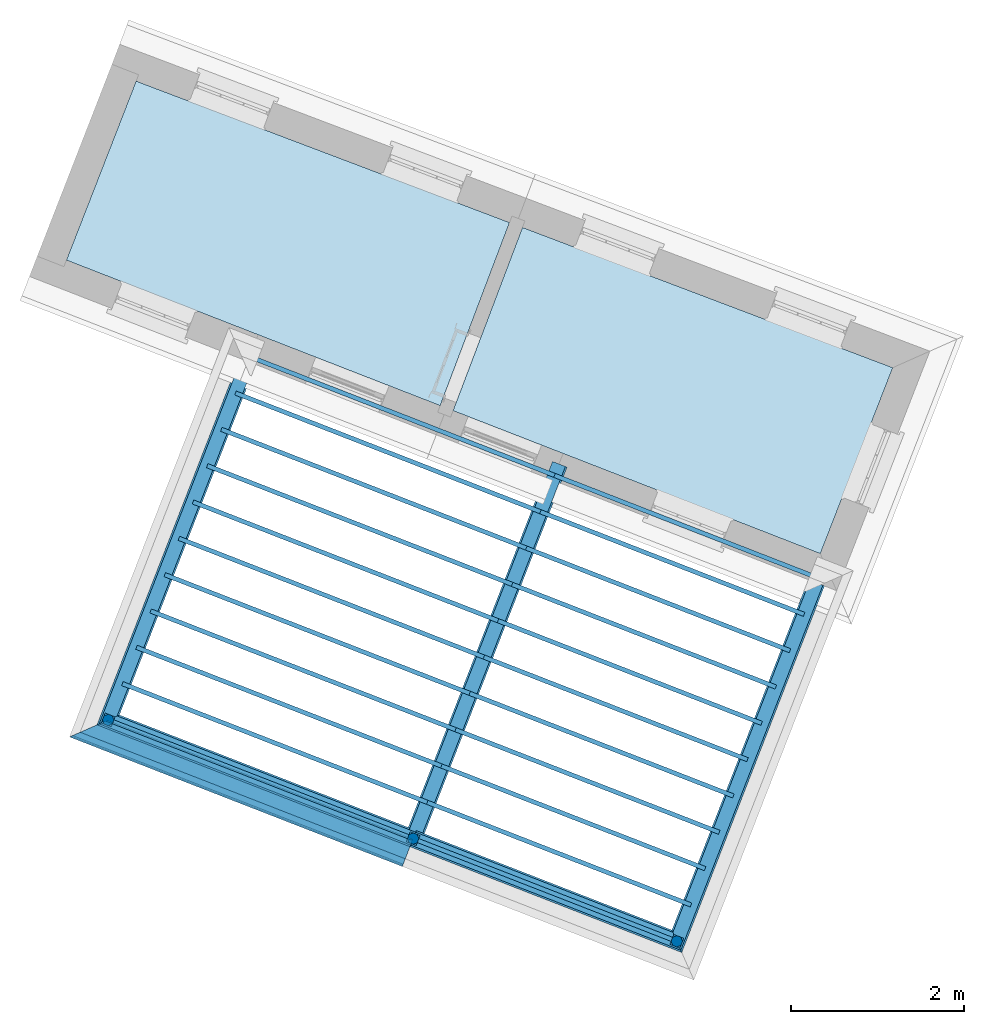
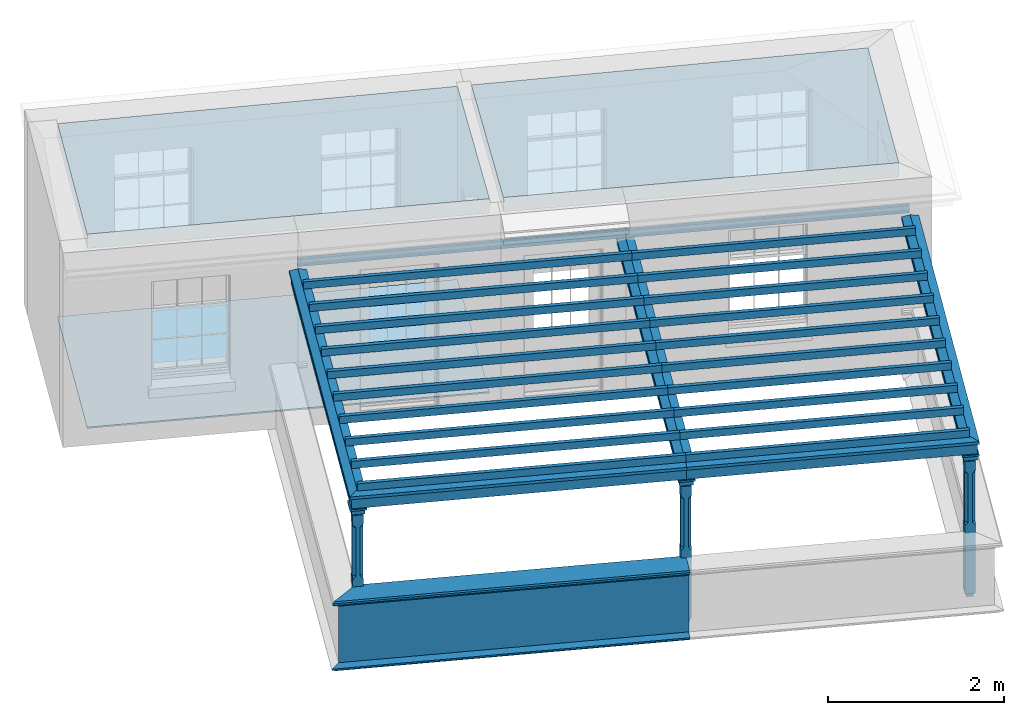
# One storey, part 1 of 5: 32 beams, 3 columns, 3 slabs, 3 walls.
"""IFC4 building model written with IfcOpenShell, lengths in metres."""

from ifc_helpers import new_model, si_unit, frame, origin, origin_with_axes, place, context, subcontext, project, spatial, polyline, outline, extrude, clip, halfspace, faceted_brep, source, transform, mapped, material_profile, profile_set, profile_usage, type_object, type_shapes, element, save


model = new_model("IFC4")

# Units and contexts
model_context = context("Model", 3, world=origin_with_axes())
body_context = subcontext(model_context, "Body", "Model", "MODEL_VIEW")
ifc_project = project(units=[si_unit("PLANEANGLEUNIT", "RADIAN"), si_unit("MASSUNIT", "GRAM", prefix="KILO"), si_unit("FORCEUNIT", "NEWTON", prefix="KILO"), si_unit("LENGTHUNIT", "METRE"), si_unit("AREAUNIT", "SQUARE_METRE"), si_unit("VOLUMEUNIT", "CUBIC_METRE")], contexts=[model_context, model_context])

# Sites, building, storey
site_1_placement = place(None, origin_with_axes())
site_1 = spatial("IfcSite", under=ifc_project, at=site_1_placement, Name="Tamar")
site_2_placement = place(site_1_placement, origin_with_axes())
site_2 = spatial("IfcSite", under=site_1, at=site_2_placement, Name="Site plot-8", CompositionType="ELEMENT")
building_placement = place(None, origin_with_axes())
building = spatial("IfcBuilding", under=site_2, at=building_placement, Name="Building plot-8", CompositionType="ELEMENT")
storey_placement = place(None, frame((0.0, 0.0, 31.55), z_axis=(0.0, 0.0, 1.0), x_axis=(1.0, 0.0, 0.0)))
storey = spatial("IfcBuildingStorey", under=building, at=storey_placement, Name="plot-8 2", CompositionType="ELEMENT", Elevation=31.55)

# Columns
column_type = type_object("IfcColumnType", Name="pergola post", PredefinedType="NOTDEFINED")
shared_shape = source(origin(), body_context, "Body", "Brep", [
    faceted_brep([(0.0246, -0.0615, 1.72), (0.0615, -0.0246, 1.72), (0.0615, -0.0615, 1.766667), (0.0615, -0.0246, 1.044444), (0.0246, -0.0615, 1.044444), (0.0615, 0.0246, 1.72), (0.0615, 0.0615, 1.766667), (-0.0246, -0.0615, 1.72), (-0.0615, -0.0615, 1.766667), (-0.0246, -0.0615, 1.044444), (0.0615, -0.0615, 0.997778), (0.0615, 0.0246, 1.044444), (0.0246, 0.0615, 1.72), (0.0615, 0.0615, 1.891111), (0.0615, -0.0615, 1.891111), (-0.0615, -0.0615, 1.891111), (-0.0615, -0.0246, 1.72), (-0.0615, -0.0246, 1.044444), (-0.0615, -0.0615, 0.997778), (0.0615, 0.0615, 0.997778), (0.0246, 0.0615, 1.044444), (-0.0246, 0.0615, 1.72), (-0.0615, 0.0615, 1.766667), (0.04305, 0.04305, 1.891111), (0.04305, -0.04305, 1.891111), (-0.0615, 0.0615, 1.891111), (-0.04305, -0.04305, 1.891111), (-0.0615, 0.0246, 1.72), (-0.0615, 0.0246, 1.044444), (0.0615, -0.0615, 0.053333), (-0.0615, -0.0615, 0.053333), (0.0615, 0.0615, 0.053333), (-0.0246, 0.0615, 1.044444), (-0.04305, 0.04305, 1.891111), (0.04305, 0.04305, 1.914444), (0.04305, -0.04305, 1.914444), (-0.04305, -0.04305, 1.914444), (-0.0615, 0.0615, 0.997778), (-0.0615, 0.0615, 0.053333), (-0.04305, -0.04305, 0.053333), (0.04305, -0.04305, 0.053333), (0.04305, 0.04305, 0.053333), (-0.04305, 0.04305, 1.914444), (0.07995, 0.07995, 1.914444), (0.07995, -0.07995, 1.914444), (-0.07995, -0.07995, 1.914444), (-0.04305, 0.04305, 0.053333), (-0.04305, -0.04305, 0.0), (0.04305, -0.04305, 0.0), (0.04305, 0.04305, 0.0), (-0.07995, 0.07995, 1.914444), (0.07995, 0.07995, 1.976667), (0.07995, -0.07995, 1.976667), (-0.07995, -0.07995, 1.976667), (-0.04305, 0.04305, 0.0), (-0.07995, 0.07995, 1.976667), (0.0984, 0.0984, 1.976667), (0.0984, -0.0984, 1.976667), (-0.0984, -0.0984, 1.976667), (-0.0984, 0.0984, 1.976667), (0.0984, 0.0984, 2.0), (0.0984, -0.0984, 2.0), (-0.0984, -0.0984, 2.0), (-0.0984, 0.0984, 2.0)], [[[0, 1, 2]], [[3, 1, 0, 4]], [[1, 5, 6, 2]], [[7, 0, 2, 8]], [[4, 0, 7, 9]], [[3, 4, 10]], [[1, 3, 11, 5]], [[5, 12, 6]], [[13, 14, 2, 6]], [[15, 8, 2, 14]], [[8, 16, 7]], [[9, 7, 16, 17]], [[9, 18, 10, 4]], [[3, 10, 19, 11]], [[20, 12, 5, 11]], [[21, 22, 6, 12]], [[14, 13, 23, 24]], [[13, 6, 22, 25]], [[25, 22, 8, 15]], [[26, 15, 14, 24]], [[16, 8, 22, 27]], [[27, 28, 17, 16]], [[17, 18, 9]], [[29, 10, 18, 30]], [[31, 19, 10, 29]], [[20, 11, 19]], [[12, 20, 32, 21]], [[21, 27, 22]], [[33, 23, 13, 25]], [[23, 34, 35, 24]], [[26, 33, 25, 15]], [[36, 26, 24, 35]], [[28, 27, 21, 32]], [[17, 28, 37, 18]], [[38, 30, 18, 37]], [[29, 30, 39, 40]], [[31, 38, 37, 19]], [[40, 41, 31, 29]], [[32, 20, 19, 37]], [[33, 42, 34, 23]], [[43, 44, 35, 34]], [[42, 33, 26, 36]], [[36, 35, 44, 45]], [[28, 32, 37]], [[46, 39, 30, 38]], [[39, 47, 48, 40]], [[46, 38, 31, 41]], [[49, 41, 40, 48]], [[43, 34, 42, 50]], [[43, 51, 52, 44]], [[45, 50, 42, 36]], [[53, 45, 44, 52]], [[46, 54, 47, 39]], [[54, 46, 41, 49]], [[50, 55, 51, 43]], [[56, 57, 52, 51]], [[55, 50, 45, 53]], [[53, 52, 57, 58]], [[56, 51, 55, 59]], [[56, 60, 61, 57]], [[58, 59, 55, 53]], [[62, 58, 57, 61]], [[59, 63, 60, 56]], [[63, 62, 61, 60]], [[58, 62, 63, 59]], [[47, 54, 49, 48]]]),
])
type_shapes(column_type, [shared_shape])
for number, where, z_axis, x_axis, name in (
    (1, (222.277903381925, 304.952829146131, 0.0), (0.0, 0.0, 1.0), (0.931863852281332, -0.36280815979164, 0.0), "pergola post"),
    (2, (225.798511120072, 303.582129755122, 0.0), (0.0, 0.0, 1.0), (0.93186385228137, -0.362808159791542, 0.0), "pergola post"),
    (3, (228.84289710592, 302.396840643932, 0.0), (0.0, 0.0, 1.0), (0.362808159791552, 0.931863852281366, 0.0), "pergola post"),
):
    element("IfcColumn", number, at=place(storey_placement, frame(where, z_axis=z_axis, x_axis=x_axis)), inside=storey, type_object=column_type, Name=name, context=body_context, shape_type="MappedRepresentation", body=[
        mapped(shared_shape, transform((0.0, 0.0, 0.0), scale=1.0)),
    ])

# Beams
ifc_material_profile_1 = material_profile(None, outline(polyline([(-0.08, -0.7), (0.08, -0.7), (0.08, -0.56), (-0.08, -0.56), (-0.08, -0.7)])))
ifc_profile_set_1 = profile_set([ifc_material_profile_1])
ifc_profile_usage_1 = profile_usage(ifc_profile_set_1)
beam_type_1 = type_object("IfcBeamType", Name="pergola beam_0", PredefinedType="NOTDEFINED", material=ifc_profile_set_1)
beam_1_placement = place(storey_placement, frame((221.915095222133, 304.02096529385, 2.7), z_axis=(0.362808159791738, 0.931863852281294, 0.0), x_axis=(-0.931863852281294, 0.362808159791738, 0.0)))
element("IfcBeam", 4, at=beam_1_placement, inside=storey, type_object=beam_type_1, material=ifc_profile_usage_1, Name="pergola beam_0", context=body_context, shape_type="Clipping", body=[
    clip(clip(extrude(outline(polyline([(-0.08, -0.7), (0.08, -0.7), (0.08, -0.56), (-0.08, -0.56), (-0.08, -0.7)])), origin_with_axes(), (0.0, 0.0, 1.0), 6.4414020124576), halfspace(frame((0.0, 0.0, 5.4414020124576), z_axis=(-2.04893359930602e-14, 0.0, -1.0), x_axis=(0.0, 1.0, 0.0)), True)), halfspace(frame((0.0, 0.0, 1.0), z_axis=(-0.70710678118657, 0.0, -0.707106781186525), x_axis=(0.0, 1.0, 0.0)), False)),
])
ifc_profile_usage_2 = profile_usage(ifc_profile_set_1)
beam_2_placement = place(storey_placement, frame((226.730374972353, 303.21932159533, 2.7), z_axis=(-0.931863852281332, 0.36280815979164, 0.0), x_axis=(-0.36280815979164, -0.931863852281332, 0.0)))
element("IfcBeam", 5, at=beam_2_placement, inside=storey, type_object=beam_type_1, material=ifc_profile_usage_2, Name="pergola beam_0", context=body_context, shape_type="Clipping", body=[
    clip(clip(extrude(outline(polyline([(-0.08, -0.7), (0.08, -0.7), (0.08, -0.56), (-0.08, -0.56), (-0.08, -0.7)])), origin_with_axes(), (0.0, 0.0, 1.0), 5.77802801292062), halfspace(frame((0.0, 0.0, 4.77802801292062), z_axis=(0.7071067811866, 0.0, -0.707106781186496), x_axis=(0.0, 1.0, 0.0)), True)), halfspace(frame((0.0, 0.0, 1.0), z_axis=(-5.16825825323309e-15, 0.0, -1.0), x_axis=(0.0, 1.0, 0.0)), False)),
])
ifc_profile_usage_3 = profile_usage(ifc_profile_set_1)
beam_3_placement = place(storey_placement, frame((229.774760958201, 302.03403248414, 2.7), z_axis=(-0.93186385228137, 0.362808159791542, 0.0), x_axis=(-0.362808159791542, -0.93186385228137, 0.0)))
element("IfcBeam", 6, at=beam_3_placement, inside=storey, type_object=beam_type_1, material=ifc_profile_usage_3, Name="pergola beam_0", context=body_context, shape_type="Clipping", body=[
    clip(clip(extrude(outline(polyline([(-0.08, -0.7), (0.08, -0.7), (0.08, -0.56), (-0.08, -0.56), (-0.08, -0.7)])), origin_with_axes(), (0.0, 0.0, 1.0), 5.26698581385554), halfspace(frame((0.0, 0.0, 4.26698581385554), z_axis=(1.00302929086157e-13, 0.0, -1.0), x_axis=(0.0, 1.0, 0.0)), True)), halfspace(frame((0.0, 0.0, 1.0), z_axis=(-0.707106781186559, 0.0, -0.707106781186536), x_axis=(0.0, 1.0, 0.0)), False)),
])
ifc_profile_usage_4 = profile_usage(ifc_profile_set_1)
beam_4_placement = place(storey_placement, frame((230.817082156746, 307.467486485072, 2.7), z_axis=(-0.36280815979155, -0.931863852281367, 0.0), x_axis=(0.931863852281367, -0.36280815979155, 0.0)))
element("IfcBeam", 7, at=beam_4_placement, inside=storey, type_object=beam_type_1, material=ifc_profile_usage_4, Name="pergola beam_0", context=body_context, shape_type="Clipping", body=[
    clip(clip(extrude(outline(polyline([(-0.08, -0.7), (0.08, -0.7), (0.08, -0.56), (-0.08, -0.56), (-0.08, -0.7)])), origin_with_axes(), (0.0, 0.0, 1.0), 6.44140201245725), halfspace(frame((0.0, 0.0, 5.44140201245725), z_axis=(0.70710678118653, 0.0, -0.707106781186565), x_axis=(0.0, 1.0, 0.0)), True)), halfspace(frame((0.0, 0.0, 1.0), z_axis=(-7.83279351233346e-15, 0.0, -1.0), x_axis=(0.0, 1.0, 0.0)), False)),
])
ifc_material_profile_2 = material_profile(None, outline(polyline([(0.0, -0.5), (-0.1, -0.52), (-0.1, -0.56), (0.1, -0.56), (0.1, -0.52), (0.0, -0.5)])))
ifc_profile_set_2 = profile_set([ifc_material_profile_2])
ifc_profile_usage_5 = profile_usage(ifc_profile_set_2)
beam_type_2 = type_object("IfcBeamType", Name="pergola beam_1", PredefinedType="NOTDEFINED", material=ifc_profile_set_2)
beam_5_placement = place(storey_placement, frame((221.915095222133, 304.02096529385, 2.7), z_axis=(0.362808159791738, 0.931863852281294, 0.0), x_axis=(-0.931863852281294, 0.362808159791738, 0.0)))
element("IfcBeam", 8, at=beam_5_placement, inside=storey, type_object=beam_type_2, material=ifc_profile_usage_5, Name="pergola beam_1", context=body_context, shape_type="Clipping", body=[
    clip(clip(extrude(outline(polyline([(0.0, -0.5), (-0.1, -0.52), (-0.1, -0.56), (0.1, -0.56), (0.1, -0.52), (0.0, -0.5)])), origin_with_axes(), (0.0, 0.0, 1.0), 6.4414020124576), halfspace(frame((0.0, 0.0, 5.4414020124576), z_axis=(-2.04893359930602e-14, 0.0, -1.0), x_axis=(0.0, 1.0, 0.0)), True)), halfspace(frame((0.0, 0.0, 1.0), z_axis=(-0.70710678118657, 0.0, -0.707106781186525), x_axis=(0.0, 1.0, 0.0)), False)),
])
ifc_profile_usage_6 = profile_usage(ifc_profile_set_2)
beam_6_placement = place(storey_placement, frame((226.730374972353, 303.21932159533, 2.7), z_axis=(-0.931863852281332, 0.36280815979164, 0.0), x_axis=(-0.36280815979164, -0.931863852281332, 0.0)))
element("IfcBeam", 9, at=beam_6_placement, inside=storey, type_object=beam_type_2, material=ifc_profile_usage_6, Name="pergola beam_1", context=body_context, shape_type="Clipping", body=[
    clip(clip(extrude(outline(polyline([(0.0, -0.5), (-0.1, -0.52), (-0.1, -0.56), (0.1, -0.56), (0.1, -0.52), (0.0, -0.5)])), origin_with_axes(), (0.0, 0.0, 1.0), 5.77802801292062), halfspace(frame((0.0, 0.0, 4.77802801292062), z_axis=(0.7071067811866, 0.0, -0.707106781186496), x_axis=(0.0, 1.0, 0.0)), True)), halfspace(frame((0.0, 0.0, 1.0), z_axis=(-5.16825825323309e-15, 0.0, -1.0), x_axis=(0.0, 1.0, 0.0)), False)),
])
ifc_profile_usage_7 = profile_usage(ifc_profile_set_2)
beam_7_placement = place(storey_placement, frame((229.774760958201, 302.03403248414, 2.7), z_axis=(-0.93186385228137, 0.362808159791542, 0.0), x_axis=(-0.362808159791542, -0.93186385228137, 0.0)))
element("IfcBeam", 10, at=beam_7_placement, inside=storey, type_object=beam_type_2, material=ifc_profile_usage_7, Name="pergola beam_1", context=body_context, shape_type="Clipping", body=[
    clip(clip(extrude(outline(polyline([(0.0, -0.5), (-0.1, -0.52), (-0.1, -0.56), (0.1, -0.56), (0.1, -0.52), (0.0, -0.5)])), origin_with_axes(), (0.0, 0.0, 1.0), 5.26698581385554), halfspace(frame((0.0, 0.0, 4.26698581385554), z_axis=(1.00302929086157e-13, 0.0, -1.0), x_axis=(0.0, 1.0, 0.0)), True)), halfspace(frame((0.0, 0.0, 1.0), z_axis=(-0.707106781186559, 0.0, -0.707106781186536), x_axis=(0.0, 1.0, 0.0)), False)),
])
ifc_profile_usage_8 = profile_usage(ifc_profile_set_2)
beam_8_placement = place(storey_placement, frame((230.817082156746, 307.467486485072, 2.7), z_axis=(-0.36280815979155, -0.931863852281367, 0.0), x_axis=(0.931863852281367, -0.36280815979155, 0.0)))
element("IfcBeam", 11, at=beam_8_placement, inside=storey, type_object=beam_type_2, material=ifc_profile_usage_8, Name="pergola beam_1", context=body_context, shape_type="Clipping", body=[
    clip(clip(extrude(outline(polyline([(0.0, -0.5), (-0.1, -0.52), (-0.1, -0.56), (0.1, -0.56), (0.1, -0.52), (0.0, -0.5)])), origin_with_axes(), (0.0, 0.0, 1.0), 6.44140201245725), halfspace(frame((0.0, 0.0, 5.44140201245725), z_axis=(0.70710678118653, 0.0, -0.707106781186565), x_axis=(0.0, 1.0, 0.0)), True)), halfspace(frame((0.0, 0.0, 1.0), z_axis=(-7.83279351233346e-15, 0.0, -1.0), x_axis=(0.0, 1.0, 0.0)), False)),
])
ifc_material_profile_3 = material_profile(None, outline(polyline([(-0.08, -0.7), (0.08, -0.7), (0.08, -0.56), (-0.08, -0.56), (-0.08, -0.7)])))
ifc_profile_set_3 = profile_set([ifc_material_profile_3])
ifc_profile_usage_9 = profile_usage(ifc_profile_set_3)
beam_type_3 = type_object("IfcBeamType", Name="pergola beam_0", PredefinedType="NOTDEFINED", material=ifc_profile_set_3)
beam_9_placement = place(storey_placement, frame((227.845257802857, 308.839148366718, 2.7), z_axis=(-0.36280815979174, -0.931863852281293, 0.0), x_axis=(0.931863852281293, -0.36280815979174, 0.0)))
element("IfcBeam", 12, at=beam_9_placement, inside=storey, type_object=beam_type_3, material=ifc_profile_usage_9, Name="pergola beam_0", context=body_context, shape_type="Clipping", body=[
    clip(clip(extrude(outline(polyline([(-0.08, -0.7), (0.08, -0.7), (0.08, -0.56), (-0.08, -0.56), (-0.08, -0.7)])), origin_with_axes(), (0.0, 0.0, 1.0), 6.59140201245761), halfspace(frame((0.0, 0.0, 5.59140201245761), z_axis=(3.0580923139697e-14, 0.0, -1.0), x_axis=(0.0, 1.0, 0.0)), True)), halfspace(frame((0.0, 0.0, 1.0), z_axis=(-2.24877374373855e-14, 0.0, -1.0), x_axis=(0.0, 1.0, 0.0)), False)),
])
ifc_material_profile_4 = material_profile(None, outline(polyline([(0.0, -0.5), (-0.1, -0.52), (-0.1, -0.56), (0.1, -0.56), (0.1, -0.52), (0.0, -0.5)])))
ifc_profile_set_4 = profile_set([ifc_material_profile_4])
ifc_profile_usage_10 = profile_usage(ifc_profile_set_4)
beam_type_4 = type_object("IfcBeamType", Name="pergola beam_1", PredefinedType="NOTDEFINED", material=ifc_profile_set_4)
beam_10_placement = place(storey_placement, frame((227.845257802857, 308.839148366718, 2.7), z_axis=(-0.36280815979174, -0.931863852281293, 0.0), x_axis=(0.931863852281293, -0.36280815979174, 0.0)))
element("IfcBeam", 13, at=beam_10_placement, inside=storey, type_object=beam_type_4, material=ifc_profile_usage_10, Name="pergola beam_1", context=body_context, shape_type="Clipping", body=[
    clip(clip(extrude(outline(polyline([(0.0, -0.5), (-0.1, -0.52), (-0.1, -0.56), (0.1, -0.56), (0.1, -0.52), (0.0, -0.5)])), origin_with_axes(), (0.0, 0.0, 1.0), 6.59140201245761), halfspace(frame((0.0, 0.0, 5.59140201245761), z_axis=(3.0580923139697e-14, 0.0, -1.0), x_axis=(0.0, 1.0, 0.0)), True)), halfspace(frame((0.0, 0.0, 1.0), z_axis=(-2.24877374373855e-14, 0.0, -1.0), x_axis=(0.0, 1.0, 0.0)), False)),
])
beam_11_placement = place(storey_placement, frame((225.789440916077, 303.558833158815, 2.2)))
element("IfcBeam", 14, at=beam_11_placement, inside=storey, Name="My Beam", ObjectType="Beam", context=body_context, shape_type="SweptSolid", body=[
    extrude(outline(polyline([(0.0, 0.0), (0.0181404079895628, 0.0465931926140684), (-3.50246733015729, 1.41729258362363), (-3.52060773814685, 1.37069939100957), (0.0, 0.0)])), origin_with_axes(), (0.0, 0.0, 1.0), 0.1),
])
beam_12_placement = place(storey_placement, frame((225.952704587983, 303.978171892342, 2.2)))
element("IfcBeam", 15, at=beam_12_placement, inside=storey, Name="My Beam", ObjectType="Beam", context=body_context, shape_type="SweptSolid", body=[
    extrude(outline(polyline([(0.0, 0.0), (0.0181404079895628, 0.0465931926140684), (-3.50246733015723, 1.41729258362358), (-3.52060773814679, 1.37069939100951), (0.0, 0.0)])), origin_with_axes(), (0.0, 0.0, 1.0), 0.1),
])
beam_13_placement = place(storey_placement, frame((226.11596825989, 304.397510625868, 2.2)))
element("IfcBeam", 16, at=beam_13_placement, inside=storey, Name="My Beam", ObjectType="Beam", context=body_context, shape_type="SweptSolid", body=[
    extrude(outline(polyline([(0.0, 0.0), (0.0181404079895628, 0.0465931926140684), (-3.50246733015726, 1.41729258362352), (-3.52060773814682, 1.37069939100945), (0.0, 0.0)])), origin_with_axes(), (0.0, 0.0, 1.0), 0.1),
])
beam_14_placement = place(storey_placement, frame((226.279231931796, 304.816849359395, 2.2)))
element("IfcBeam", 17, at=beam_14_placement, inside=storey, Name="My Beam", ObjectType="Beam", context=body_context, shape_type="SweptSolid", body=[
    extrude(outline(polyline([(0.0, 0.0), (0.0181404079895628, 0.0465931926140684), (-3.50246733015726, 1.41729258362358), (-3.52060773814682, 1.37069939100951), (0.0, 0.0)])), origin_with_axes(), (0.0, 0.0, 1.0), 0.1),
])
beam_15_placement = place(storey_placement, frame((226.442495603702, 305.236188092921, 2.2)))
element("IfcBeam", 18, at=beam_15_placement, inside=storey, Name="My Beam", ObjectType="Beam", context=body_context, shape_type="SweptSolid", body=[
    extrude(outline(polyline([(0.0, 0.0), (0.0181404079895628, 0.0465931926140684), (-3.50246733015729, 1.41729258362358), (-3.52060773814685, 1.37069939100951), (0.0, 0.0)])), origin_with_axes(), (0.0, 0.0, 1.0), 0.1),
])
for number, where, name in (
    (19, (226.605759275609, 305.655526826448, 2.2), "My Beam"),
    (20, (226.769022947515, 306.074865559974, 2.2), "My Beam"),
):
    element("IfcBeam", number, at=place(storey_placement, frame(where)), inside=storey, Name=name, ObjectType="Beam", context=body_context, shape_type="SweptSolid", body=[
        extrude(outline(polyline([(0.0, 0.0), (0.0181404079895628, 0.0465931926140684), (-3.50246733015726, 1.41729258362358), (-3.52060773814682, 1.37069939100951), (0.0, 0.0)])), origin_with_axes(), (0.0, 0.0, 1.0), 0.1),
    ])
beam_16_placement = place(storey_placement, frame((226.932286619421, 306.494204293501, 2.2)))
element("IfcBeam", 21, at=beam_16_placement, inside=storey, Name="My Beam", ObjectType="Beam", context=body_context, shape_type="SweptSolid", body=[
    extrude(outline(polyline([(0.0, 0.0), (0.0181404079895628, 0.0465931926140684), (-3.50246733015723, 1.41729258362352), (-3.52060773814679, 1.37069939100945), (0.0, 0.0)])), origin_with_axes(), (0.0, 0.0, 1.0), 0.1),
])
beam_17_placement = place(storey_placement, frame((227.095550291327, 306.913543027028, 2.2)))
element("IfcBeam", 22, at=beam_17_placement, inside=storey, Name="My Beam", ObjectType="Beam", context=body_context, shape_type="SweptSolid", body=[
    extrude(outline(polyline([(0.0, 0.0), (0.0181404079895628, 0.0465931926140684), (-3.50246733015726, 1.41729258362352), (-3.52060773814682, 1.37069939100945), (0.0, 0.0)])), origin_with_axes(), (0.0, 0.0, 1.0), 0.1),
])
beam_18_placement = place(storey_placement, frame((227.258813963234, 307.332881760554, 2.2)))
element("IfcBeam", 23, at=beam_18_placement, inside=storey, Name="My Beam", ObjectType="Beam", context=body_context, shape_type="SweptSolid", body=[
    extrude(outline(polyline([(0.0, 0.0), (0.0181404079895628, 0.0465931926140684), (-3.50246733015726, 1.41729258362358), (-3.52060773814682, 1.37069939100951), (0.0, 0.0)])), origin_with_axes(), (0.0, 0.0, 1.0), 0.1),
])
beam_19_placement = place(storey_placement, frame((227.42207763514, 307.752220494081, 2.2)))
element("IfcBeam", 24, at=beam_19_placement, inside=storey, Name="My Beam", ObjectType="Beam", context=body_context, shape_type="SweptSolid", body=[
    extrude(outline(polyline([(0.0, 0.0), (0.0181404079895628, 0.0465931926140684), (-3.50246733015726, 1.41729258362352), (-3.52060773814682, 1.37069939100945), (0.0, 0.0)])), origin_with_axes(), (0.0, 0.0, 1.0), 0.1),
])
beam_20_placement = place(storey_placement, frame((228.833826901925, 302.373544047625, 2.2)))
element("IfcBeam", 25, at=beam_20_placement, inside=storey, Name="My Beam", ObjectType="Beam", context=body_context, shape_type="SweptSolid", body=[
    extrude(outline(polyline([(0.0, 0.0), (0.0181404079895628, 0.0465931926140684), (-3.02624557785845, 1.23188230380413), (-3.04438598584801, 1.18528911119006), (0.0, 0.0)])), origin_with_axes(), (0.0, 0.0, 1.0), 0.1),
])
beam_21_placement = place(storey_placement, frame((228.997090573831, 302.792882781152, 2.2)))
element("IfcBeam", 26, at=beam_21_placement, inside=storey, Name="My Beam", ObjectType="Beam", context=body_context, shape_type="SweptSolid", body=[
    extrude(outline(polyline([(0.0, 0.0), (0.0181404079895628, 0.0465931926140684), (-3.02624557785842, 1.23188230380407), (-3.04438598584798, 1.18528911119), (0.0, 0.0)])), origin_with_axes(), (0.0, 0.0, 1.0), 0.1),
])
beam_22_placement = place(storey_placement, frame((229.160354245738, 303.212221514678, 2.2)))
element("IfcBeam", 27, at=beam_22_placement, inside=storey, Name="My Beam", ObjectType="Beam", context=body_context, shape_type="SweptSolid", body=[
    extrude(outline(polyline([(0.0, 0.0), (0.0181404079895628, 0.0465931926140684), (-3.02624557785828, 1.23188230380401), (-3.04438598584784, 1.18528911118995), (0.0, 0.0)])), origin_with_axes(), (0.0, 0.0, 1.0), 0.1),
])
beam_23_placement = place(storey_placement, frame((229.323617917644, 303.631560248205, 2.2)))
element("IfcBeam", 28, at=beam_23_placement, inside=storey, Name="My Beam", ObjectType="Beam", context=body_context, shape_type="SweptSolid", body=[
    extrude(outline(polyline([(0.0, 0.0), (0.0181404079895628, 0.0465931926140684), (-3.02624557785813, 1.23188230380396), (-3.0443859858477, 1.18528911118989), (0.0, 0.0)])), origin_with_axes(), (0.0, 0.0, 1.0), 0.1),
])
beam_24_placement = place(storey_placement, frame((229.48688158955, 304.050898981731, 2.2)))
element("IfcBeam", 29, at=beam_24_placement, inside=storey, Name="My Beam", ObjectType="Beam", context=body_context, shape_type="SweptSolid", body=[
    extrude(outline(polyline([(0.0, 0.0), (0.0181404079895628, 0.0465931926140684), (-3.02624557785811, 1.2318823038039), (-3.04438598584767, 1.18528911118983), (0.0, 0.0)])), origin_with_axes(), (0.0, 0.0, 1.0), 0.1),
])
beam_25_placement = place(storey_placement, frame((229.650145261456, 304.470237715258, 2.2)))
element("IfcBeam", 30, at=beam_25_placement, inside=storey, Name="My Beam", ObjectType="Beam", context=body_context, shape_type="SweptSolid", body=[
    extrude(outline(polyline([(0.0, 0.0), (0.0181404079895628, 0.0465931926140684), (-3.02624557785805, 1.2318823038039), (-3.04438598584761, 1.18528911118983), (0.0, 0.0)])), origin_with_axes(), (0.0, 0.0, 1.0), 0.1),
])
beam_26_placement = place(storey_placement, frame((229.813408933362, 304.889576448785, 2.2)))
element("IfcBeam", 31, at=beam_26_placement, inside=storey, Name="My Beam", ObjectType="Beam", context=body_context, shape_type="SweptSolid", body=[
    extrude(outline(polyline([(0.0, 0.0), (0.0181404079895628, 0.0465931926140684), (-3.02624557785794, 1.23188230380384), (-3.0443859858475, 1.18528911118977), (0.0, 0.0)])), origin_with_axes(), (0.0, 0.0, 1.0), 0.1),
])
beam_27_placement = place(storey_placement, frame((229.976672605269, 305.308915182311, 2.2)))
element("IfcBeam", 32, at=beam_27_placement, inside=storey, Name="My Beam", ObjectType="Beam", context=body_context, shape_type="SweptSolid", body=[
    extrude(outline(polyline([(0.0, 0.0), (0.0181404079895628, 0.0465931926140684), (-3.02624557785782, 1.23188230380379), (-3.04438598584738, 1.18528911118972), (0.0, 0.0)])), origin_with_axes(), (0.0, 0.0, 1.0), 0.1),
])
beam_28_placement = place(storey_placement, frame((230.139936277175, 305.728253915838, 2.2)))
element("IfcBeam", 33, at=beam_28_placement, inside=storey, Name="My Beam", ObjectType="Beam", context=body_context, shape_type="SweptSolid", body=[
    extrude(outline(polyline([(0.0, 0.0), (0.0181404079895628, 0.0465931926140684), (-3.02624557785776, 1.23188230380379), (-3.04438598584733, 1.18528911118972), (0.0, 0.0)])), origin_with_axes(), (0.0, 0.0, 1.0), 0.1),
])
beam_29_placement = place(storey_placement, frame((230.303199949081, 306.147592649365, 2.2)))
element("IfcBeam", 34, at=beam_29_placement, inside=storey, Name="My Beam", ObjectType="Beam", context=body_context, shape_type="SweptSolid", body=[
    extrude(outline(polyline([(0.0, 0.0), (0.0181404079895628, 0.0465931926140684), (-3.02624557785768, 1.23188230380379), (-3.04438598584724, 1.18528911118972), (0.0, 0.0)])), origin_with_axes(), (0.0, 0.0, 1.0), 0.1),
])
beam_30_placement = place(storey_placement, frame((230.466463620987, 306.566931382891, 2.2)))
element("IfcBeam", 35, at=beam_30_placement, inside=storey, Name="My Beam", ObjectType="Beam", context=body_context, shape_type="SweptSolid", body=[
    extrude(outline(polyline([(0.0, 0.0), (0.0181404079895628, 0.0465931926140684), (-3.02624557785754, 1.23188230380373), (-3.0443859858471, 1.18528911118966), (0.0, 0.0)])), origin_with_axes(), (0.0, 0.0, 1.0), 0.1),
])

# Slabs
slab_1_placement = place(storey_placement, frame((221.795843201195, 310.260790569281, 2.5)))
element("IfcSlab", 36, at=slab_1_placement, inside=storey, Name="My Slab", ObjectType="Slab", PredefinedType="FLOOR", context=body_context, shape_type="SweptSolid", body=[
    extrude(outline(polyline([(0.0, 0.0), (4.31451663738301, -1.67979671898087), (5.11512416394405, 0.433972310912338), (0.804608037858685, 2.06661599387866), (0.0, 0.0)])), origin_with_axes(), (0.0, 0.0, 1.0), 0.2),
])
slab_2_placement = place(storey_placement, frame((221.795843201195, 310.260790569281, 0.0)))
element("IfcSlab", 37, at=slab_2_placement, inside=storey, Name="My Slab", ObjectType="Slab", PredefinedType="FLOOR", context=body_context, shape_type="SweptSolid", body=[
    extrude(outline(polyline([(0.0, 0.0), (4.31451663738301, -1.67979671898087), (5.11512416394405, 0.433972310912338), (0.804608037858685, 2.06661599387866), (0.0, 0.0)])), origin_with_axes(), (0.0, 0.0, 1.0), 0.02),
])
slab_3_placement = place(storey_placement, frame((226.259464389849, 308.522942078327, 2.5)))
element("IfcSlab", 38, at=slab_3_placement, inside=storey, Name="My Slab", ObjectType="Slab", PredefinedType="FLOOR", context=body_context, shape_type="SweptSolid", body=[
    extrude(outline(polyline([(0.0, 0.0), (4.23998719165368, -1.65077972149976), (5.07583281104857, 0.496069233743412), (0.801129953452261, 2.1151483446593), (0.0, 0.0)])), origin_with_axes(), (0.0, 0.0, 1.0), 0.2),
])

# Walls
ifc_material_profile_5 = material_profile(None, outline(polyline([(0.25, 0.0), (0.25, 0.795), (0.09, 0.795), (0.09, 0.02), (-0.08, 0.02), (-0.08, 0.0), (0.25, 0.0)])))
ifc_profile_set_5 = profile_set([ifc_material_profile_5])
ifc_profile_usage_11 = profile_usage(ifc_profile_set_5)
wall_type_1 = type_object("IfcWallType", Name="parapet_0", PredefinedType="PARAPET", material=ifc_profile_set_5)
wall_1_placement = place(storey_placement, frame((226.730374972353, 303.21932159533, 0.0), z_axis=(-0.931863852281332, 0.36280815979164, 0.0), x_axis=(-0.36280815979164, -0.931863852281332, 0.0)))
element("IfcWall", 39, at=wall_1_placement, inside=storey, type_object=wall_type_1, material=ifc_profile_usage_11, Name="parapet_0", context=body_context, shape_type="Clipping", body=[
    clip(clip(extrude(outline(polyline([(0.25, 0.0), (0.25, 0.795), (0.09, 0.795), (0.09, 0.02), (-0.08, 0.02), (-0.08, 0.0), (0.25, 0.0)])), origin_with_axes(), (0.0, 0.0, 1.0), 5.77802801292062), halfspace(frame((0.0, 0.0, 4.77802801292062), z_axis=(0.7071067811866, 0.0, -0.707106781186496), x_axis=(0.0, 1.0, 0.0)), True)), halfspace(frame((0.0, 0.0, 1.0), z_axis=(-5.16825825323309e-15, 0.0, -1.0), x_axis=(0.0, 1.0, 0.0)), False)),
])
ifc_material_profile_6 = material_profile(None, outline(polyline([(0.265, 0.795), (0.268, 0.807), (0.274, 0.816), (0.283, 0.822), (0.295, 0.825), (0.295, 0.84), (0.305, 0.84), (0.317, 0.842), (0.326, 0.849), (0.333, 0.858), (0.335, 0.87), (0.333, 0.882), (0.326, 0.891), (0.317, 0.898), (0.305, 0.9), (0.035, 0.9), (0.023, 0.898), (0.014, 0.891), (0.007, 0.882), (0.005, 0.87), (0.007, 0.858), (0.014, 0.849), (0.023, 0.842), (0.035, 0.84), (0.045, 0.84), (0.045, 0.825), (0.057, 0.822), (0.066, 0.816), (0.072, 0.807), (0.075, 0.795), (0.265, 0.795)])))
ifc_profile_set_6 = profile_set([ifc_material_profile_6])
ifc_profile_usage_12 = profile_usage(ifc_profile_set_6)
wall_type_2 = type_object("IfcWallType", Name="parapet_1", PredefinedType="PARAPET", material=ifc_profile_set_6)
wall_2_placement = place(storey_placement, frame((226.730374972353, 303.21932159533, 0.0), z_axis=(-0.931863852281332, 0.36280815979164, 0.0), x_axis=(-0.36280815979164, -0.931863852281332, 0.0)))
element("IfcWall", 40, at=wall_2_placement, inside=storey, type_object=wall_type_2, material=ifc_profile_usage_12, Name="parapet_1", context=body_context, shape_type="Clipping", body=[
    clip(clip(extrude(outline(polyline([(0.265, 0.795), (0.268, 0.807), (0.274, 0.816), (0.283, 0.822), (0.295, 0.825), (0.295, 0.84), (0.305, 0.84), (0.317, 0.842), (0.326, 0.849), (0.333, 0.858), (0.335, 0.87), (0.333, 0.882), (0.326, 0.891), (0.317, 0.898), (0.305, 0.9), (0.035, 0.9), (0.023, 0.898), (0.014, 0.891), (0.007, 0.882), (0.005, 0.87), (0.007, 0.858), (0.014, 0.849), (0.023, 0.842), (0.035, 0.84), (0.045, 0.84), (0.045, 0.825), (0.057, 0.822), (0.066, 0.816), (0.072, 0.807), (0.075, 0.795), (0.265, 0.795)])), origin_with_axes(), (0.0, 0.0, 1.0), 5.77802801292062), halfspace(frame((0.0, 0.0, 4.77802801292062), z_axis=(0.7071067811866, 0.0, -0.707106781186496), x_axis=(0.0, 1.0, 0.0)), True)), halfspace(frame((0.0, 0.0, 1.0), z_axis=(-5.16825825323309e-15, 0.0, -1.0), x_axis=(0.0, 1.0, 0.0)), False)),
])
ifc_material_profile_7 = material_profile(None, outline(polyline([(0.25, -0.1), (0.265, -0.1), (0.265, -0.085), (0.278, -0.084), (0.289, -0.081), (0.301, -0.074), (0.309, -0.065), (0.315, -0.055), (0.324, -0.044), (0.334, -0.038), (0.345, -0.035), (0.345, -0.015), (0.25, 0.0), (0.25, -0.1)])))
ifc_profile_set_7 = profile_set([ifc_material_profile_7])
ifc_profile_usage_13 = profile_usage(ifc_profile_set_7)
wall_type_3 = type_object("IfcWallType", Name="parapet_2", PredefinedType="PARAPET", material=ifc_profile_set_7)
wall_3_placement = place(storey_placement, frame((226.730374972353, 303.21932159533, 0.0), z_axis=(-0.931863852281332, 0.36280815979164, 0.0), x_axis=(-0.36280815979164, -0.931863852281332, 0.0)))
element("IfcWall", 41, at=wall_3_placement, inside=storey, type_object=wall_type_3, material=ifc_profile_usage_13, Name="parapet_2", context=body_context, shape_type="Clipping", body=[
    clip(clip(extrude(outline(polyline([(0.25, -0.1), (0.265, -0.1), (0.265, -0.085), (0.278, -0.084), (0.289, -0.081), (0.301, -0.074), (0.309, -0.065), (0.315, -0.055), (0.324, -0.044), (0.334, -0.038), (0.345, -0.035), (0.345, -0.015), (0.25, 0.0), (0.25, -0.1)])), origin_with_axes(), (0.0, 0.0, 1.0), 5.77802801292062), halfspace(frame((0.0, 0.0, 4.77802801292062), z_axis=(0.7071067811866, 0.0, -0.707106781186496), x_axis=(0.0, 1.0, 0.0)), True)), halfspace(frame((0.0, 0.0, 1.0), z_axis=(-5.16825825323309e-15, 0.0, -1.0), x_axis=(0.0, 1.0, 0.0)), False)),
])

save(model, "model.ifc")
